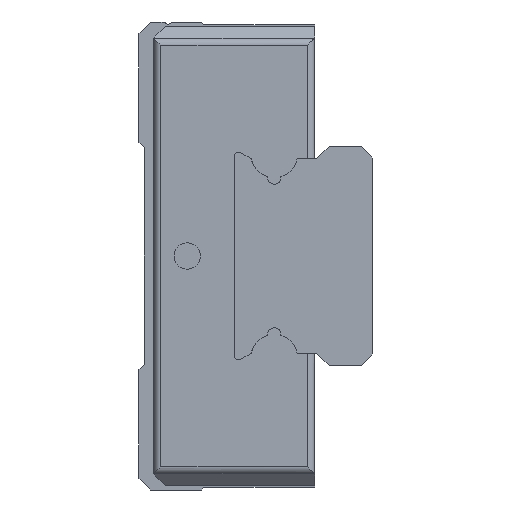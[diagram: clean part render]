
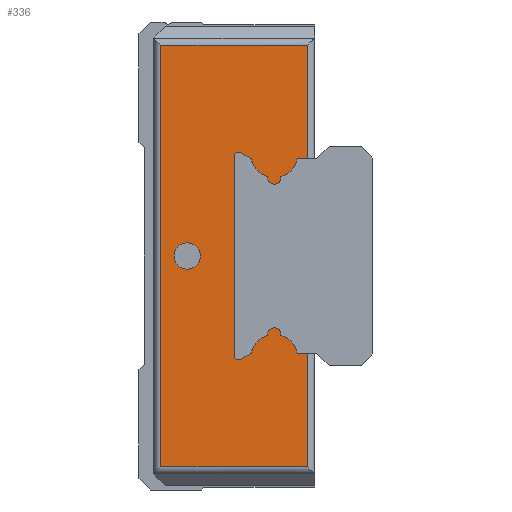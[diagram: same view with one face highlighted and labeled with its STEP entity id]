
A CAD part, left-side view. The second image highlights one B-rep face of the part: STEP entity #336.
In plain terms, the highlighted planar face has unit normal (-1, 0, 0).
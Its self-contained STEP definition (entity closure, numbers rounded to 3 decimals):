
#336 = ADVANCED_FACE( '', ( #691, #692 ), #693, .T. );
#691 = FACE_OUTER_BOUND( '', #1059, .T. );
#692 = FACE_BOUND( '', #1060, .T. );
#693 = PLANE( '', #1061 );
#1059 = EDGE_LOOP( '', ( #1843, #1844, #1845, #1846, #1847, #1848, #1849, #1850, #1851, #1852, #1853, #1854, #1855, #1856, #1857, #1858, #1859, #1860 ) );
#1060 = EDGE_LOOP( '', ( #1861 ) );
#1061 = AXIS2_PLACEMENT_3D( '', #1862, #1863, #1864 );
#1843 = ORIENTED_EDGE( '', *, *, #2170, .T. );
#1844 = ORIENTED_EDGE( '', *, *, #2355, .F. );
#1845 = ORIENTED_EDGE( '', *, *, #2306, .T. );
#1846 = ORIENTED_EDGE( '', *, *, #2229, .F. );
#1847 = ORIENTED_EDGE( '', *, *, #2427, .F. );
#1848 = ORIENTED_EDGE( '', *, *, #2175, .F. );
#1849 = ORIENTED_EDGE( '', *, *, #2330, .T. );
#1850 = ORIENTED_EDGE( '', *, *, #2128, .T. );
#1851 = ORIENTED_EDGE( '', *, *, #2339, .T. );
#1852 = ORIENTED_EDGE( '', *, *, #2421, .T. );
#1853 = ORIENTED_EDGE( '', *, *, #2386, .T. );
#1854 = ORIENTED_EDGE( '', *, *, #2428, .F. );
#1855 = ORIENTED_EDGE( '', *, *, #2113, .F. );
#1856 = ORIENTED_EDGE( '', *, *, #2423, .F. );
#1857 = ORIENTED_EDGE( '', *, *, #2348, .T. );
#1858 = ORIENTED_EDGE( '', *, *, #2235, .F. );
#1859 = ORIENTED_EDGE( '', *, *, #2264, .F. );
#1860 = ORIENTED_EDGE( '', *, *, #2378, .T. );
#1861 = ORIENTED_EDGE( '', *, *, #2409, .T. );
#1862 = CARTESIAN_POINT( '', ( -28.5, 0., 0. ) );
#1863 = DIRECTION( '', ( -1., 0., 0. ) );
#1864 = DIRECTION( '', ( 0., 0., 1. ) );
#2113 = EDGE_CURVE( '', #2491, #2492, #2493, .T. );
#2128 = EDGE_CURVE( '', #2518, #2519, #2520, .T. );
#2170 = EDGE_CURVE( '', #2593, #2594, #2595, .T. );
#2175 = EDGE_CURVE( '', #2601, #2602, #2603, .T. );
#2229 = EDGE_CURVE( '', #2693, #2694, #2695, .T. );
#2235 = EDGE_CURVE( '', #2702, #2704, #2705, .T. );
#2264 = EDGE_CURVE( '', #2750, #2702, #2752, .T. );
#2306 = EDGE_CURVE( '', #2816, #2694, #2817, .T. );
#2330 = EDGE_CURVE( '', #2601, #2518, #2847, .T. );
#2339 = EDGE_CURVE( '', #2519, #2857, #2858, .T. );
#2348 = EDGE_CURVE( '', #2869, #2704, #2870, .T. );
#2355 = EDGE_CURVE( '', #2816, #2594, #2878, .T. );
#2378 = EDGE_CURVE( '', #2750, #2593, #2905, .T. );
#2386 = EDGE_CURVE( '', #2916, #2917, #2918, .T. );
#2409 = EDGE_CURVE( '', #2947, #2947, #2948, .T. );
#2421 = EDGE_CURVE( '', #2857, #2916, #2961, .T. );
#2423 = EDGE_CURVE( '', #2869, #2491, #2963, .T. );
#2427 = EDGE_CURVE( '', #2602, #2693, #2967, .T. );
#2428 = EDGE_CURVE( '', #2492, #2917, #2968, .T. );
#2491 = VERTEX_POINT( '', #3039 );
#2492 = VERTEX_POINT( '', #3040 );
#2493 = CIRCLE( '', #3041, 0.45 );
#2518 = VERTEX_POINT( '', #3074 );
#2519 = VERTEX_POINT( '', #3075 );
#2520 = CIRCLE( '', #3076, 0.3 );
#2593 = VERTEX_POINT( '', #3173 );
#2594 = VERTEX_POINT( '', #3174 );
#2595 = LINE( '', #3175, #3176 );
#2601 = VERTEX_POINT( '', #3183 );
#2602 = VERTEX_POINT( '', #3184 );
#2603 = CIRCLE( '', #3185, 1.6 );
#2693 = VERTEX_POINT( '', #3310 );
#2694 = VERTEX_POINT( '', #3311 );
#2695 = CIRCLE( '', #3312, 1.6 );
#2702 = VERTEX_POINT( '', #3321 );
#2704 = VERTEX_POINT( '', #3323 );
#2705 = LINE( '', #3324, #3325 );
#2750 = VERTEX_POINT( '', #3381 );
#2752 = LINE( '', #3383, #3384 );
#2816 = VERTEX_POINT( '', #3470 );
#2817 = LINE( '', #3471, #3472 );
#2847 = LINE( '', #3513, #3514 );
#2857 = VERTEX_POINT( '', #3529 );
#2858 = LINE( '', #3530, #3531 );
#2869 = VERTEX_POINT( '', #3547 );
#2870 = LINE( '', #3548, #3549 );
#2878 = LINE( '', #3559, #3560 );
#2905 = LINE( '', #3603, #3604 );
#2916 = VERTEX_POINT( '', #3617 );
#2917 = VERTEX_POINT( '', #3618 );
#2918 = LINE( '', #3619, #3620 );
#2947 = VERTEX_POINT( '', #3657 );
#2948 = CIRCLE( '', #3658, 0.9 );
#2961 = CIRCLE( '', #3675, 0.3 );
#2963 = CIRCLE( '', #3677, 1.6 );
#2967 = CIRCLE( '', #3682, 0.45 );
#2968 = CIRCLE( '', #3683, 1.6 );
#3039 = CARTESIAN_POINT( '', ( -28.5, 2.304, 5.413 ) );
#3040 = CARTESIAN_POINT( '', ( -28.5, 3.196, 5.413 ) );
#3041 = AXIS2_PLACEMENT_3D( '', #3752, #3753, #3754 );
#3074 = CARTESIAN_POINT( '', ( -28.5, 5.05, -6.96 ) );
#3075 = CARTESIAN_POINT( '', ( -28.5, 5.5, -6.7 ) );
#3076 = AXIS2_PLACEMENT_3D( '', #3772, #3773, #3774 );
#3173 = CARTESIAN_POINT( '', ( -28.5, 10.5, -14.4 ) );
#3174 = CARTESIAN_POINT( '', ( -28.5, 0.5, -14.4 ) );
#3175 = CARTESIAN_POINT( '', ( -28.5, 12., -14.4 ) );
#3176 = VECTOR( '', #3823, 1000. );
#3183 = CARTESIAN_POINT( '', ( -28.5, 4.292, -6.522 ) );
#3184 = CARTESIAN_POINT( '', ( -28.5, 3.196, -5.413 ) );
#3185 = AXIS2_PLACEMENT_3D( '', #3831, #3832, #3833 );
#3310 = CARTESIAN_POINT( '', ( -28.5, 2.304, -5.413 ) );
#3311 = CARTESIAN_POINT( '', ( -28.5, 1.178, -6.65 ) );
#3312 = AXIS2_PLACEMENT_3D( '', #3890, #3891, #3892 );
#3321 = CARTESIAN_POINT( '', ( -28.5, 0.5, 14.4 ) );
#3323 = CARTESIAN_POINT( '', ( -28.5, 0.5, 6.65 ) );
#3324 = CARTESIAN_POINT( '', ( -28.5, 0.5, 16. ) );
#3325 = VECTOR( '', #3901, 1000. );
#3381 = CARTESIAN_POINT( '', ( -28.5, 10.5, 14.4 ) );
#3383 = CARTESIAN_POINT( '', ( -28.5, 12., 14.4 ) );
#3384 = VECTOR( '', #3940, 1000. );
#3470 = CARTESIAN_POINT( '', ( -28.5, 0.5, -6.65 ) );
#3471 = CARTESIAN_POINT( '', ( -28.5, 0., -6.65 ) );
#3472 = VECTOR( '', #3993, 1000. );
#3513 = CARTESIAN_POINT( '', ( -28.5, 4.292, -6.522 ) );
#3514 = VECTOR( '', #4017, 1000. );
#3529 = CARTESIAN_POINT( '', ( -28.5, 5.5, 6.7 ) );
#3530 = CARTESIAN_POINT( '', ( -28.5, 5.5, -6.7 ) );
#3531 = VECTOR( '', #4023, 1000. );
#3547 = CARTESIAN_POINT( '', ( -28.5, 1.178, 6.65 ) );
#3548 = CARTESIAN_POINT( '', ( -28.5, 1.178, 6.65 ) );
#3549 = VECTOR( '', #4029, 1000. );
#3559 = CARTESIAN_POINT( '', ( -28.5, 0.5, 16. ) );
#3560 = VECTOR( '', #4038, 1000. );
#3603 = CARTESIAN_POINT( '', ( -28.5, 10.5, 16. ) );
#3604 = VECTOR( '', #4058, 1000. );
#3617 = CARTESIAN_POINT( '', ( -28.5, 5.05, 6.96 ) );
#3618 = CARTESIAN_POINT( '', ( -28.5, 4.292, 6.522 ) );
#3619 = CARTESIAN_POINT( '', ( -28.5, 5.05, 6.96 ) );
#3620 = VECTOR( '', #4067, 1000. );
#3657 = CARTESIAN_POINT( '', ( -28.5, 8.7, -0.9 ) );
#3658 = AXIS2_PLACEMENT_3D( '', #4097, #4098, #4099 );
#3675 = AXIS2_PLACEMENT_3D( '', #4107, #4108, #4109 );
#3677 = AXIS2_PLACEMENT_3D( '', #4110, #4111, #4112 );
#3682 = AXIS2_PLACEMENT_3D( '', #4114, #4115, #4116 );
#3683 = AXIS2_PLACEMENT_3D( '', #4117, #4118, #4119 );
#3752 = CARTESIAN_POINT( '', ( -28.5, 2.75, 5.35 ) );
#3753 = DIRECTION( '', ( 1., 0., 0. ) );
#3754 = DIRECTION( '', ( 0., 0., -1. ) );
#3772 = CARTESIAN_POINT( '', ( -28.5, 5.2, -6.7 ) );
#3773 = DIRECTION( '', ( 1., 0., 0. ) );
#3774 = DIRECTION( '', ( 0., 0., -1. ) );
#3823 = DIRECTION( '', ( 0., -1., 0. ) );
#3831 = CARTESIAN_POINT( '', ( -28.5, 2.75, -6.95 ) );
#3832 = DIRECTION( '', ( 1., 0., 0. ) );
#3833 = DIRECTION( '', ( 0., 0., -1. ) );
#3890 = CARTESIAN_POINT( '', ( -28.5, 2.75, -6.95 ) );
#3891 = DIRECTION( '', ( 1., 0., 0. ) );
#3892 = DIRECTION( '', ( 0., 0., -1. ) );
#3901 = DIRECTION( '', ( 0., 0., -1. ) );
#3940 = DIRECTION( '', ( 0., -1., 0. ) );
#3993 = DIRECTION( '', ( 0., 1., 0. ) );
#4017 = DIRECTION( '', ( 0., 0.866, -0.5 ) );
#4023 = DIRECTION( '', ( 0., 0., 1. ) );
#4029 = DIRECTION( '', ( 0., -1., 0. ) );
#4038 = DIRECTION( '', ( 0., 0., -1. ) );
#4058 = DIRECTION( '', ( 0., 0., -1. ) );
#4067 = DIRECTION( '', ( 0., -0.866, -0.5 ) );
#4097 = CARTESIAN_POINT( '', ( -28.5, 8.7, 0. ) );
#4098 = DIRECTION( '', ( 1., 0., 0. ) );
#4099 = DIRECTION( '', ( 0., 0., -1. ) );
#4107 = CARTESIAN_POINT( '', ( -28.5, 5.2, 6.7 ) );
#4108 = DIRECTION( '', ( 1., 0., 0. ) );
#4109 = DIRECTION( '', ( 0., 0., -1. ) );
#4110 = CARTESIAN_POINT( '', ( -28.5, 2.75, 6.95 ) );
#4111 = DIRECTION( '', ( 1., 0., 0. ) );
#4112 = DIRECTION( '', ( 0., 0., -1. ) );
#4114 = CARTESIAN_POINT( '', ( -28.5, 2.75, -5.35 ) );
#4115 = DIRECTION( '', ( 1., 0., 0. ) );
#4116 = DIRECTION( '', ( 0., 0., -1. ) );
#4117 = CARTESIAN_POINT( '', ( -28.5, 2.75, 6.95 ) );
#4118 = DIRECTION( '', ( 1., 0., 0. ) );
#4119 = DIRECTION( '', ( 0., 0., -1. ) );
